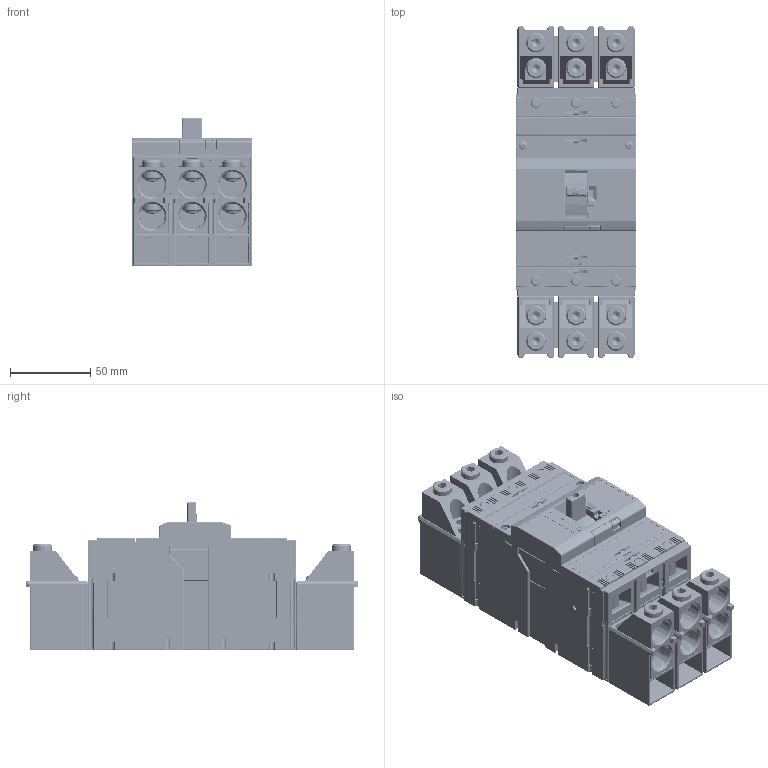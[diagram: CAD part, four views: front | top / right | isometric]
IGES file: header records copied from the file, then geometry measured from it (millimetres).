
Start section: SolidWorks IGES file using analytic representation for surfaces
Global section: file name: U:\14_RD\05_Technical_office\04_Office\Hrdinova\3D modely - IGES\Modeion\BC160NT305__CS-BC-B021.IGS; native system: SolidWorks 2011; preprocessor: SolidWorks 2011; author: adhrja3; date: 170615.122445; units: millimetre
Bounding box: 75 x 207 x 92.5 mm (x, y, z)
Surface area: 223928.3 mm2 (no closed solid volume)
Topology: 0 solids, 0 shells, 5284 faces, 49053 edges, 48980 vertices
Faces by surface type: bspline 3415, revolution 1869
